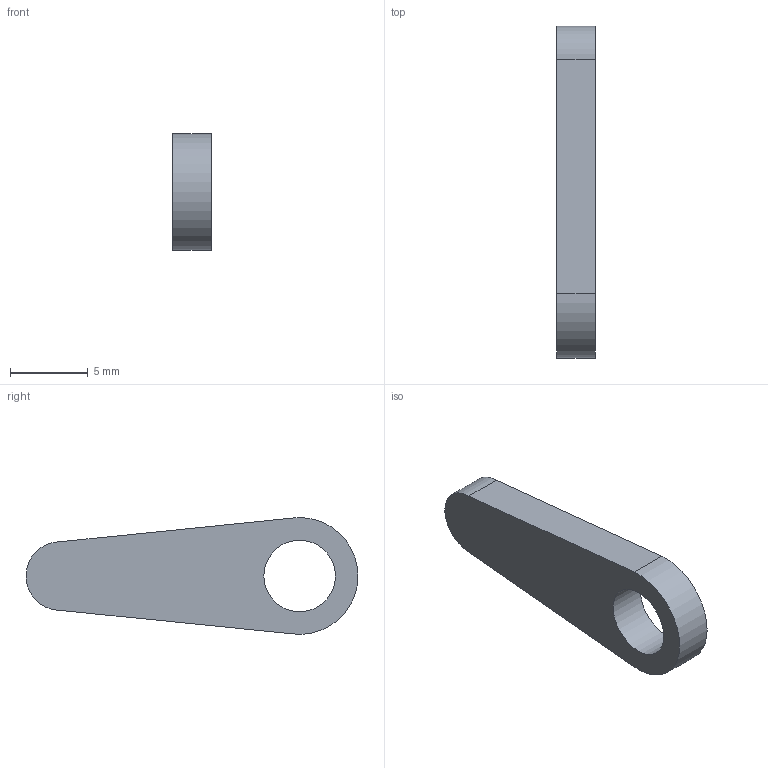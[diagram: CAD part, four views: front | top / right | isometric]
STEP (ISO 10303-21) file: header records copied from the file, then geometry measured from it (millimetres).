
FILE_DESCRIPTION(/* description */ ('STEP AP242 Edition 2','CAx-IF Rec.Pracs.---Representation and Presentation of Product Manufacturing Information (PMI)---4.0---2014-10-13','CAx-IF Rec.Pracs.---3D Tessellated Geometry---0.4---2014-09-14','2;1','CAx-IF Rec.Pracs.---User Defined Attributes---1.5---2016-08-15'),/* implementation_level */ '2;1');
FILE_NAME(/* name */ 'Assembly 1 - Part 1 (112)',/* time_stamp */ '2026-06-04T16:20:00Z',/* author */ (''),/* organization */ (''),/* preprocessor_version */ 'ST-DEVELOPER v20',/* originating_system */ 'ONSHAPE BY PTC INC, 1.215',/* authorisation */ ' ');
FILE_SCHEMA (('AP242_MANAGED_MODEL_BASED_3D_ENGINEERING_MIM_LF { 1 0 10303 442 3 1 4 }'));
Length unit declared in the file: metre
Products named in the file (1): Part 1
Bounding box: 2.5 x 21.34 x 7.49 mm (x, y, z)
Volume: 262.6 mm3; surface area: 370.3 mm2
Topology: 1 solids, 1 shells, 7 faces, 15 edges, 10 vertices
Faces by surface type: plane 4, cylinder 3
Full cylindrical faces by diameter (mm): 4.6 x1
Entity records: 216 total; most frequent: DIRECTION 36, CARTESIAN_POINT 32, ORIENTED_EDGE 28, EDGE_CURVE 14, AXIS2_PLACEMENT_3D 14, VERTEX_POINT 10, EDGE_LOOP 10, FACE_BOUND 10
